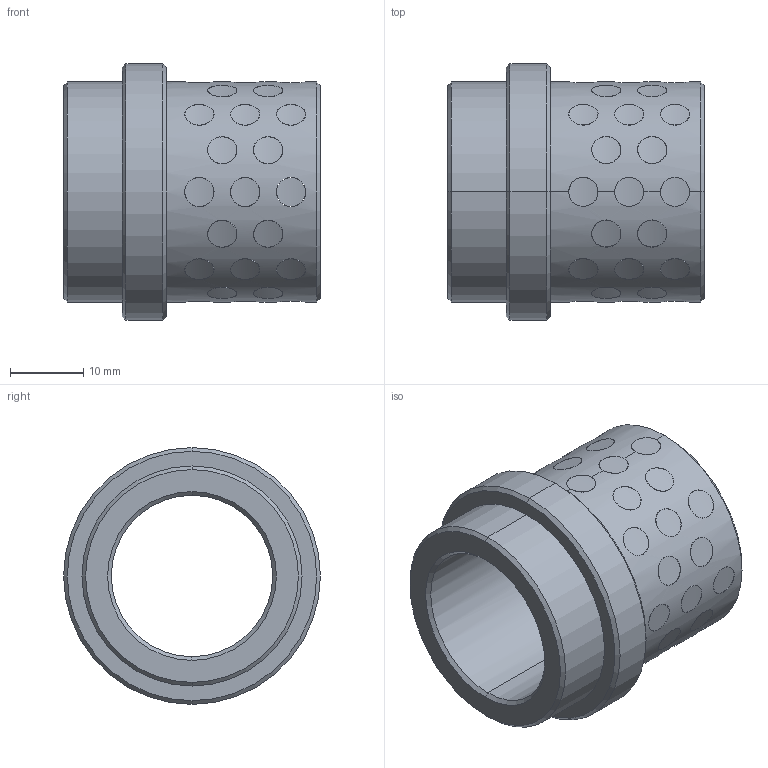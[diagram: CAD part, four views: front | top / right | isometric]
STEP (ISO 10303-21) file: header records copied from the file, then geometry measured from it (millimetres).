
FILE_DESCRIPTION((''),'2;1');
FILE_NAME('G31222027','2017-12-30T',('MANU'),(''),'PRO/ENGINEER BY PARAMETRIC TECHNOLOGY CORPORATION, 2012130','PRO/ENGINEER BY PARAMETRIC TECHNOLOGY CORPORATION, 2012130','');
FILE_SCHEMA(('CONFIG_CONTROL_DESIGN'));
Length unit declared in the file: millimetre
Products named in the file (1): G31222027
Bounding box: 35 x 35 x 35 mm (x, y, z)
Volume: 12848.6 mm3; surface area: 10810.4 mm2
Topology: 41 solids, 41 shells, 264 faces, 564 edges, 372 vertices
Faces by surface type: cylinder 248, cone 12, plane 4
Entity records: 12034 total; most frequent: CARTESIAN_POINT 6820, ORIENTED_EDGE 1128, DIRECTION 776, EDGE_CURVE 564, VERTEX_POINT 372, B_SPLINE_CURVE_WITH_KNOTS 344, EDGE_LOOP 336, AXIS2_PLACEMENT_3D 292
